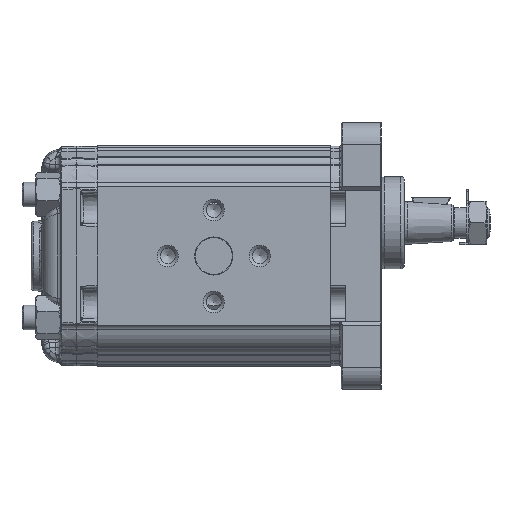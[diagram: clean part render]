
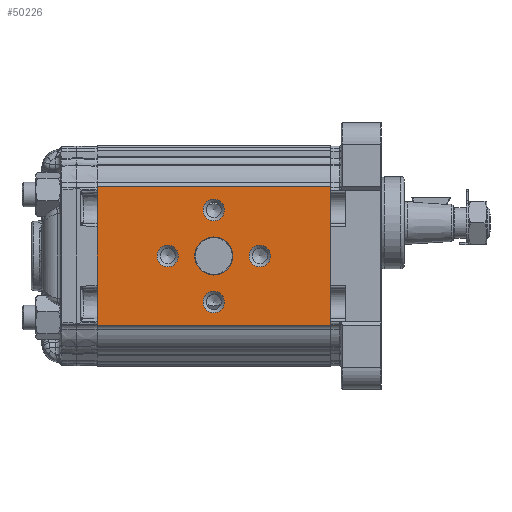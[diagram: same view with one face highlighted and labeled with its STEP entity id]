
A CAD part, left-side view. The second image highlights one B-rep face of the part: STEP entity #50226.
In plain terms, the highlighted planar face has unit normal (-1, 0, 0).
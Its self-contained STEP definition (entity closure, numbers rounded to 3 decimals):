
#2064=LINE('',#71364,#3935);
#2074=LINE('',#71465,#3945);
#2093=LINE('',#71513,#3964);
#2094=LINE('',#71515,#3965);
#3935=VECTOR('',#59497,1000.);
#3945=VECTOR('',#59589,1000.);
#3964=VECTOR('',#59644,1000.);
#3965=VECTOR('',#59647,1000.);
#10383=ORIENTED_EDGE('',*,*,#19098,.T.);
#10384=ORIENTED_EDGE('',*,*,#19099,.T.);
#10385=ORIENTED_EDGE('',*,*,#19100,.T.);
#10386=ORIENTED_EDGE('',*,*,#19101,.T.);
#10387=ORIENTED_EDGE('',*,*,#19102,.T.);
#10388=ORIENTED_EDGE('',*,*,#19078,.T.);
#10389=ORIENTED_EDGE('',*,*,#19050,.T.);
#10390=ORIENTED_EDGE('',*,*,#19079,.T.);
#10391=ORIENTED_EDGE('',*,*,#19000,.F.);
#19000=EDGE_CURVE('',#23631,#23632,#2064,.T.);
#19050=EDGE_CURVE('',#23682,#23681,#2074,.T.);
#19078=EDGE_CURVE('',#23631,#23682,#2093,.T.);
#19079=EDGE_CURVE('',#23681,#23632,#2094,.F.);
#19098=EDGE_CURVE('',#23701,#23701,#26574,.F.);
#19099=EDGE_CURVE('',#23702,#23702,#26575,.F.);
#19100=EDGE_CURVE('',#23703,#23703,#26576,.F.);
#19101=EDGE_CURVE('',#23704,#23704,#26577,.F.);
#19102=EDGE_CURVE('',#23705,#23705,#26578,.F.);
#23631=VERTEX_POINT('',#71363);
#23632=VERTEX_POINT('',#71365);
#23681=VERTEX_POINT('',#71464);
#23682=VERTEX_POINT('',#71466);
#23701=VERTEX_POINT('',#71638);
#23702=VERTEX_POINT('',#71640);
#23703=VERTEX_POINT('',#71642);
#23704=VERTEX_POINT('',#71644);
#23705=VERTEX_POINT('',#71646);
#26574=CIRCLE('',#53309,3.5);
#26575=CIRCLE('',#53310,3.5);
#26576=CIRCLE('',#53311,3.5);
#26577=CIRCLE('',#53312,3.5);
#26578=CIRCLE('',#53313,6.2);
#28683=EDGE_LOOP('',(#10383));
#28684=EDGE_LOOP('',(#10384));
#28685=EDGE_LOOP('',(#10385));
#28686=EDGE_LOOP('',(#10386));
#28687=EDGE_LOOP('',(#10387));
#28688=EDGE_LOOP('',(#10388,#10389,#10390,#10391));
#31284=FACE_BOUND('',#28683,.T.);
#31285=FACE_BOUND('',#28684,.T.);
#31286=FACE_BOUND('',#28685,.T.);
#31287=FACE_BOUND('',#28686,.T.);
#31288=FACE_BOUND('',#28687,.T.);
#31289=FACE_BOUND('',#28688,.T.);
#33182=PLANE('',#53308);
#50226=ADVANCED_FACE('',(#31284,#31285,#31286,#31287,#31288,#31289),#33182,
 .T.);
#53308=AXIS2_PLACEMENT_3D('',#71636,#59690,#59691);
#53309=AXIS2_PLACEMENT_3D('',#71637,#59692,#59693);
#53310=AXIS2_PLACEMENT_3D('',#71639,#59694,#59695);
#53311=AXIS2_PLACEMENT_3D('',#71641,#59696,#59697);
#53312=AXIS2_PLACEMENT_3D('',#71643,#59698,#59699);
#53313=AXIS2_PLACEMENT_3D('',#71645,#59700,#59701);
#59497=DIRECTION('',(0.,0.,1.));
#59589=DIRECTION('',(0.,0.,1.));
#59644=DIRECTION('',(0.,-1.,0.));
#59647=DIRECTION('',(0.,-1.,0.));
#59690=DIRECTION('',(-1.,0.,0.));
#59691=DIRECTION('',(0.,0.,1.));
#59692=DIRECTION('',(-1.,0.,0.));
#59693=DIRECTION('',(0.,0.,1.));
#59694=DIRECTION('',(-1.,0.,0.));
#59695=DIRECTION('',(0.,0.,1.));
#59696=DIRECTION('',(-1.,0.,0.));
#59697=DIRECTION('',(0.,0.,1.));
#59698=DIRECTION('',(-1.,0.,0.));
#59699=DIRECTION('',(0.,0.,1.));
#59700=DIRECTION('',(-1.,0.,0.));
#59701=DIRECTION('',(0.,0.,1.));
#71363=CARTESIAN_POINT('',(-33.,76.,-22.5));
#71364=CARTESIAN_POINT('',(-33.,76.,-21.711));
#71365=CARTESIAN_POINT('',(-33.,76.,22.5));
#71464=CARTESIAN_POINT('',(-33.,0.,22.5));
#71465=CARTESIAN_POINT('',(-33.,0.,-21.711));
#71466=CARTESIAN_POINT('',(-33.,0.,-22.5));
#71513=CARTESIAN_POINT('',(-33.,76.,-22.5));
#71515=CARTESIAN_POINT('',(-33.,76.,22.5));
#71636=CARTESIAN_POINT('',(-33.,140.14,48.138));
#71637=CARTESIAN_POINT('',(-33.,38.,-15.));
#71638=CARTESIAN_POINT('',(-33.,38.,-11.5));
#71639=CARTESIAN_POINT('',(-33.,23.,0.));
#71640=CARTESIAN_POINT('',(-33.,23.,3.5));
#71641=CARTESIAN_POINT('',(-33.,38.,15.));
#71642=CARTESIAN_POINT('',(-33.,38.,18.5));
#71643=CARTESIAN_POINT('',(-33.,53.,0.));
#71644=CARTESIAN_POINT('',(-33.,53.,3.5));
#71645=CARTESIAN_POINT('',(-33.,38.,0.));
#71646=CARTESIAN_POINT('',(-33.,38.,6.2));
